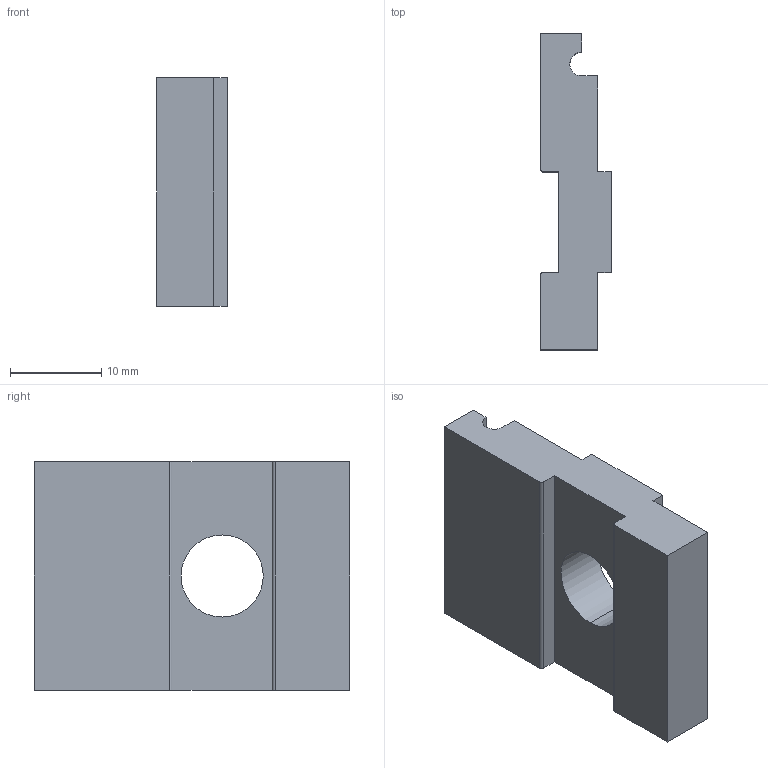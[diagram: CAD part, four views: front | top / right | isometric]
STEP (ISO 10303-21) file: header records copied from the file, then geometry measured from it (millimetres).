
FILE_DESCRIPTION (( 'STEP AP214' ), '1' );
FILE_NAME ('FGRD 6P.step', '2017-04-05T07:43:10', ( '' ), ( '' ), 'SwSTEP 2.0', 'SolidWorks 2015', '' );
FILE_SCHEMA (( 'AUTOMOTIVE_DESIGN' ));
Length unit declared in the file: millimetre
Products named in the file (1): FGRD 6P
Bounding box: 7.75 x 34.6 x 25 mm (x, y, z)
Volume: 4634.4 mm3; surface area: 2683.5 mm2
Topology: 1 solids, 1 shells, 22 faces, 60 edges, 40 vertices
Faces by surface type: plane 16, cylinder 6
Entity records: 734 total; most frequent: CARTESIAN_POINT 123, ORIENTED_EDGE 120, DIRECTION 118, EDGE_CURVE 60, VECTOR 48, LINE 48, VERTEX_POINT 40, AXIS2_PLACEMENT_3D 35
